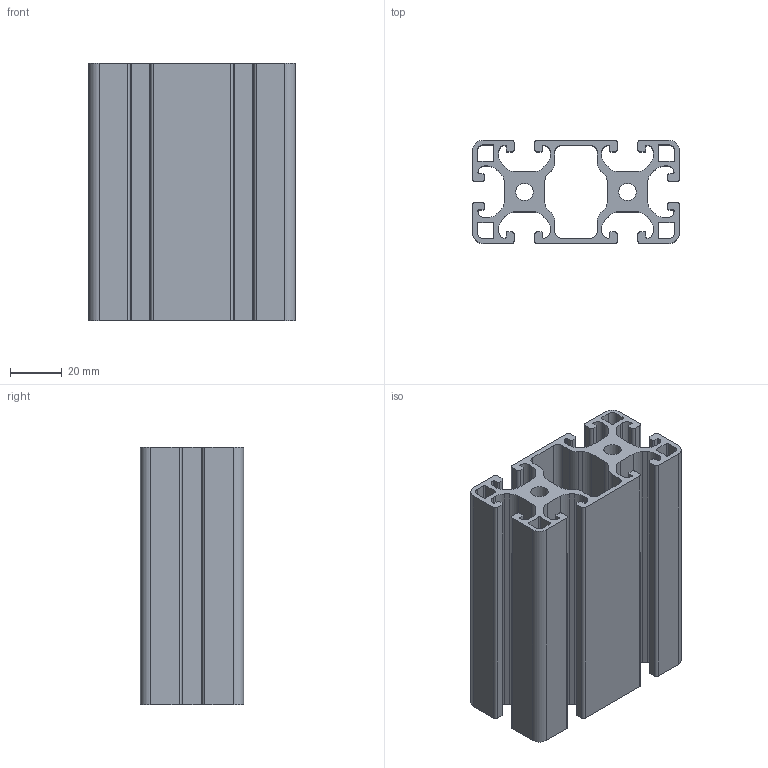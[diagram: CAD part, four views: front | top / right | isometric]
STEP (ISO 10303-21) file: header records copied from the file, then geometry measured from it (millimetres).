
FILE_DESCRIPTION(/* description */ ('New'),/* implementation_level */ '2;1');
FILE_NAME(/* name */ 'D:\Kereskedelem\Dropbox\Kereskedelem\Katalogusok\IPT katalógusok\Profil CAD 3D\IPT I 40x80 Light - 100 mm.stp',/* time_stamp */ '2015-01-20T11:03:40+01:00',/* author */ ('MP'),/* organization */ ('Process-Tech'),/* preprocessor_version */ 'ST-DEVELOPER v15.2',/* originating_system */ 'Autodesk Inventor 2014',/* authorisation */ '');
FILE_SCHEMA (('AUTOMOTIVE_DESIGN { 1 0 10303 214 3 1 1 }'));
Length unit declared in the file: millimetre
Products named in the file (1): IPT I 40x80 Light - 100 mm
Bounding box: 80 x 40 x 100 mm (x, y, z)
Volume: 114794.8 mm3; surface area: 78740.1 mm2
Topology: 1 solids, 1 shells, 236 faces, 702 edges, 468 vertices
Faces by surface type: cylinder 118, plane 118
Full cylindrical faces by diameter (mm): 6.8 x2
Entity records: 8024 total; most frequent: DIRECTION 1410, CARTESIAN_POINT 1405, ORIENTED_EDGE 1400, EDGE_CURVE 700, AXIS2_PLACEMENT_3D 473, VERTEX_POINT 468, LINE 464, VECTOR 464
